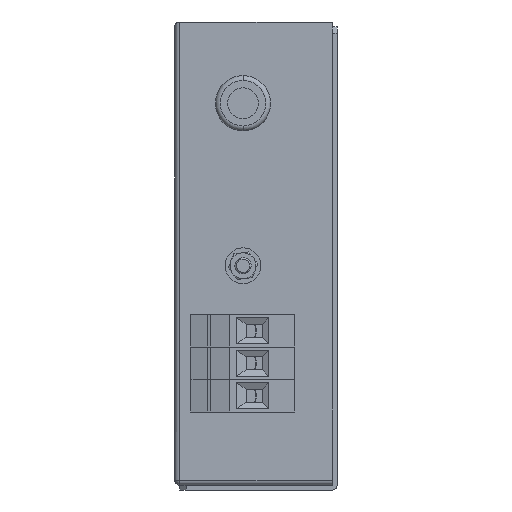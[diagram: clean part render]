
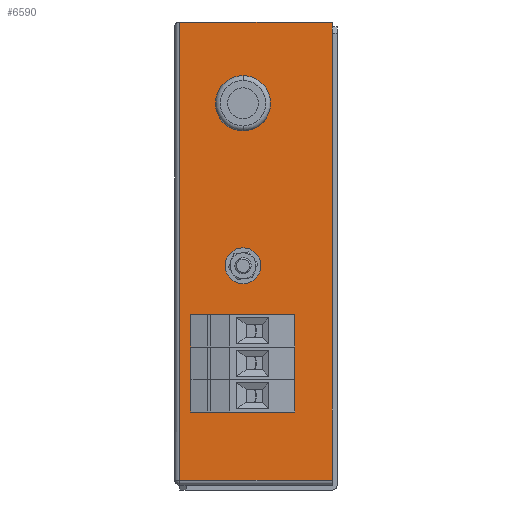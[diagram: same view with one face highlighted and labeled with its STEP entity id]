
A CAD part, left-side view. The second image highlights one B-rep face of the part: STEP entity #6590.
In plain terms, the highlighted planar face has unit normal (-1, 0, 0).
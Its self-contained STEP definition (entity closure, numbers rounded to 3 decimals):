
#50 = DIRECTION ( 'NONE',  ( -1., 0., 0. ) ) ;
#68 = FACE_BOUND ( 'NONE', #1959, .T. ) ;
#165 = EDGE_CURVE ( 'NONE', #5141, #2364, #3622, .T. ) ;
#274 = CIRCLE ( 'NONE', #5175, 4.1 ) ;
#373 = CARTESIAN_POINT ( 'NONE',  ( 23., 29., -17.25 ) ) ;
#379 = CIRCLE ( 'NONE', #3315, 2.5 ) ;
#471 = DIRECTION ( 'NONE',  ( 0., 0., 1. ) ) ;
#481 = CARTESIAN_POINT ( 'NONE',  ( 23., 48.5, 1.5 ) ) ;
#500 = CARTESIAN_POINT ( 'NONE',  ( 23., 1.5, 0. ) ) ;
#590 = ORIENTED_EDGE ( 'NONE', *, *, #165, .T. ) ;
#664 = ORIENTED_EDGE ( 'NONE', *, *, #9201, .T. ) ;
#681 = ORIENTED_EDGE ( 'NONE', *, *, #1506, .T. ) ;
#748 = EDGE_LOOP ( 'NONE', ( #8249, #5520 ) ) ;
#836 = DIRECTION ( 'NONE',  ( -1., 0., 0. ) ) ;
#982 = CARTESIAN_POINT ( 'NONE',  ( 23., 29., -113.5 ) ) ;
#1082 = VERTEX_POINT ( 'NONE', #6636 ) ;
#1245 = AXIS2_PLACEMENT_3D ( 'NONE', #8604, #4625, #3894 ) ;
#1300 = CARTESIAN_POINT ( 'NONE',  ( 23., 29., -73.5 ) ) ;
#1316 = EDGE_LOOP ( 'NONE', ( #3254, #4554 ) ) ;
#1321 = EDGE_LOOP ( 'NONE', ( #3928, #2498 ) ) ;
#1506 = EDGE_CURVE ( 'NONE', #8306, #5703, #10332, .T. ) ;
#1517 = EDGE_CURVE ( 'NONE', #5703, #5141, #1542, .T. ) ;
#1542 = LINE ( 'NONE', #1858, #10077 ) ;
#1591 = ORIENTED_EDGE ( 'NONE', *, *, #1517, .T. ) ;
#1647 = CIRCLE ( 'NONE', #1711, 4.1 ) ;
#1654 = CIRCLE ( 'NONE', #9341, 6.25 ) ;
#1659 = EDGE_CURVE ( 'NONE', #3522, #4749, #1654, .T. ) ;
#1694 = DIRECTION ( 'NONE',  ( 0., 0., 1. ) ) ;
#1711 = AXIS2_PLACEMENT_3D ( 'NONE', #2920, #6899, #471 ) ;
#1858 = CARTESIAN_POINT ( 'NONE',  ( 23., 50., -139.5 ) ) ;
#1959 = EDGE_LOOP ( 'NONE', ( #2828, #5641 ) ) ;
#1973 = EDGE_CURVE ( 'NONE', #2841, #9888, #8618, .T. ) ;
#2099 = CARTESIAN_POINT ( 'NONE',  ( 23., 1.5, 1.5 ) ) ;
#2111 = DIRECTION ( 'NONE',  ( 0., 0., 1. ) ) ;
#2228 = VERTEX_POINT ( 'NONE', #5168 ) ;
#2308 = CARTESIAN_POINT ( 'NONE',  ( 23., 29., -109.4 ) ) ;
#2364 = VERTEX_POINT ( 'NONE', #500 ) ;
#2387 = CARTESIAN_POINT ( 'NONE',  ( 23., 29., -103.5 ) ) ;
#2498 = ORIENTED_EDGE ( 'NONE', *, *, #1973, .F. ) ;
#2557 = VERTEX_POINT ( 'NONE', #9588 ) ;
#2689 = EDGE_CURVE ( 'NONE', #9604, #5538, #5053, .T. ) ;
#2742 = ORIENTED_EDGE ( 'NONE', *, *, #1659, .F. ) ;
#2764 = CARTESIAN_POINT ( 'NONE',  ( 23., 29., -107.6 ) ) ;
#2828 = ORIENTED_EDGE ( 'NONE', *, *, #8400, .F. ) ;
#2841 = VERTEX_POINT ( 'NONE', #2764 ) ;
#2920 = CARTESIAN_POINT ( 'NONE',  ( 23., 29., -93.5 ) ) ;
#3243 = VECTOR ( 'NONE', #10165, 1000. ) ;
#3254 = ORIENTED_EDGE ( 'NONE', *, *, #6316, .F. ) ;
#3292 = DIRECTION ( 'NONE',  ( 0., 0., 1. ) ) ;
#3315 = AXIS2_PLACEMENT_3D ( 'NONE', #1300, #9428, #2111 ) ;
#3363 = DIRECTION ( 'NONE',  ( 0., -1., 0. ) ) ;
#3522 = VERTEX_POINT ( 'NONE', #5057 ) ;
#3622 = LINE ( 'NONE', #9876, #3243 ) ;
#3664 = CIRCLE ( 'NONE', #8007, 6.25 ) ;
#3751 = DIRECTION ( 'NONE',  ( 0., 0., -1. ) ) ;
#3894 = DIRECTION ( 'NONE',  ( 0., 0., 1. ) ) ;
#3928 = ORIENTED_EDGE ( 'NONE', *, *, #8953, .F. ) ;
#4063 = DIRECTION ( 'NONE',  ( -1., 0., 0. ) ) ;
#4197 = CARTESIAN_POINT ( 'NONE',  ( 23., 1.5, 1.5 ) ) ;
#4533 = DIRECTION ( 'NONE',  ( -1., 0., 0. ) ) ;
#4554 = ORIENTED_EDGE ( 'NONE', *, *, #9552, .F. ) ;
#4558 = DIRECTION ( 'NONE',  ( 0., 0., 1. ) ) ;
#4595 = CIRCLE ( 'NONE', #8635, 4.1 ) ;
#4625 = DIRECTION ( 'NONE',  ( -1., 0., 0. ) ) ;
#4647 = FACE_BOUND ( 'NONE', #1316, .T. ) ;
#4749 = VERTEX_POINT ( 'NONE', #373 ) ;
#4936 = CARTESIAN_POINT ( 'NONE',  ( 23., 29., -76. ) ) ;
#5011 = CARTESIAN_POINT ( 'NONE',  ( 23., 29., -113.5 ) ) ;
#5043 = EDGE_LOOP ( 'NONE', ( #6166, #681, #1591, #590, #664 ) ) ;
#5050 = DIRECTION ( 'NONE',  ( 0., -1., 0. ) ) ;
#5053 = CIRCLE ( 'NONE', #7904, 4.1 ) ;
#5057 = CARTESIAN_POINT ( 'NONE',  ( 23., 29., -29.75 ) ) ;
#5115 = DIRECTION ( 'NONE',  ( -1., 0., 0. ) ) ;
#5141 = VERTEX_POINT ( 'NONE', #6902 ) ;
#5156 = DIRECTION ( 'NONE',  ( 0., 0., -1. ) ) ;
#5168 = CARTESIAN_POINT ( 'NONE',  ( 23., 29., -71. ) ) ;
#5175 = AXIS2_PLACEMENT_3D ( 'NONE', #5011, #5115, #8342 ) ;
#5353 = CIRCLE ( 'NONE', #1245, 2.5 ) ;
#5364 = AXIS2_PLACEMENT_3D ( 'NONE', #9017, #50, #5779 ) ;
#5396 = AXIS2_PLACEMENT_3D ( 'NONE', #2387, #4063, #1694 ) ;
#5520 = ORIENTED_EDGE ( 'NONE', *, *, #8631, .F. ) ;
#5538 = VERTEX_POINT ( 'NONE', #9342 ) ;
#5641 = ORIENTED_EDGE ( 'NONE', *, *, #10185, .F. ) ;
#5703 = VERTEX_POINT ( 'NONE', #7789 ) ;
#5779 = DIRECTION ( 'NONE',  ( 0., 0., 1. ) ) ;
#5965 = VECTOR ( 'NONE', #5156, 1000. ) ;
#6146 = EDGE_CURVE ( 'NONE', #4749, #3522, #3664, .T. ) ;
#6166 = ORIENTED_EDGE ( 'NONE', *, *, #9275, .F. ) ;
#6280 = FACE_BOUND ( 'NONE', #10164, .T. ) ;
#6316 = EDGE_CURVE ( 'NONE', #2557, #1082, #9621, .T. ) ;
#6324 = VERTEX_POINT ( 'NONE', #4936 ) ;
#6590 = ADVANCED_FACE ( 'NONE', ( #9609, #8686, #4647, #68, #6280, #9740 ), #9343, .F. ) ;
#6636 = CARTESIAN_POINT ( 'NONE',  ( 23., 29., -97.6 ) ) ;
#6899 = DIRECTION ( 'NONE',  ( -1., 0., 0. ) ) ;
#6902 = CARTESIAN_POINT ( 'NONE',  ( 23., 1.5, -139.5 ) ) ;
#6917 = CARTESIAN_POINT ( 'NONE',  ( 23., 29., -23.5 ) ) ;
#7018 = DIRECTION ( 'NONE',  ( -1., 0., 0. ) ) ;
#7124 = DIRECTION ( 'NONE',  ( 0., 0., 1. ) ) ;
#7611 = LINE ( 'NONE', #4197, #10448 ) ;
#7789 = CARTESIAN_POINT ( 'NONE',  ( 23., 48.5, -139.5 ) ) ;
#7904 = AXIS2_PLACEMENT_3D ( 'NONE', #982, #9135, #9934 ) ;
#7908 = CARTESIAN_POINT ( 'NONE',  ( 23., 29., -103.5 ) ) ;
#8007 = AXIS2_PLACEMENT_3D ( 'NONE', #8806, #836, #7124 ) ;
#8249 = ORIENTED_EDGE ( 'NONE', *, *, #2689, .F. ) ;
#8306 = VERTEX_POINT ( 'NONE', #481 ) ;
#8342 = DIRECTION ( 'NONE',  ( 0., 0., 1. ) ) ;
#8400 = EDGE_CURVE ( 'NONE', #2228, #6324, #5353, .T. ) ;
#8483 = AXIS2_PLACEMENT_3D ( 'NONE', #8603, #10247, #3751 ) ;
#8603 = CARTESIAN_POINT ( 'NONE',  ( 23., 50., 1.5 ) ) ;
#8604 = CARTESIAN_POINT ( 'NONE',  ( 23., 29., -73.5 ) ) ;
#8618 = CIRCLE ( 'NONE', #5396, 4.1 ) ;
#8631 = EDGE_CURVE ( 'NONE', #5538, #9604, #274, .T. ) ;
#8635 = AXIS2_PLACEMENT_3D ( 'NONE', #7908, #7018, #4558 ) ;
#8686 = FACE_BOUND ( 'NONE', #1321, .T. ) ;
#8720 = VERTEX_POINT ( 'NONE', #2099 ) ;
#8762 = VECTOR ( 'NONE', #3363, 1000. ) ;
#8806 = CARTESIAN_POINT ( 'NONE',  ( 23., 29., -23.5 ) ) ;
#8933 = CARTESIAN_POINT ( 'NONE',  ( 23., 29., -99.4 ) ) ;
#8953 = EDGE_CURVE ( 'NONE', #9888, #2841, #4595, .T. ) ;
#9017 = CARTESIAN_POINT ( 'NONE',  ( 23., 29., -93.5 ) ) ;
#9024 = LINE ( 'NONE', #9919, #8762 ) ;
#9135 = DIRECTION ( 'NONE',  ( -1., 0., 0. ) ) ;
#9201 = EDGE_CURVE ( 'NONE', #2364, #8720, #7611, .T. ) ;
#9250 = DIRECTION ( 'NONE',  ( 0., 0., 1. ) ) ;
#9275 = EDGE_CURVE ( 'NONE', #8306, #8720, #9024, .T. ) ;
#9341 = AXIS2_PLACEMENT_3D ( 'NONE', #6917, #4533, #9250 ) ;
#9342 = CARTESIAN_POINT ( 'NONE',  ( 23., 29., -117.6 ) ) ;
#9343 = PLANE ( 'NONE',  #8483 ) ;
#9428 = DIRECTION ( 'NONE',  ( -1., 0., 0. ) ) ;
#9552 = EDGE_CURVE ( 'NONE', #1082, #2557, #1647, .T. ) ;
#9588 = CARTESIAN_POINT ( 'NONE',  ( 23., 29., -89.4 ) ) ;
#9604 = VERTEX_POINT ( 'NONE', #2308 ) ;
#9609 = FACE_BOUND ( 'NONE', #748, .T. ) ;
#9621 = CIRCLE ( 'NONE', #5364, 4.1 ) ;
#9672 = ORIENTED_EDGE ( 'NONE', *, *, #6146, .F. ) ;
#9740 = FACE_OUTER_BOUND ( 'NONE', #5043, .T. ) ;
#9876 = CARTESIAN_POINT ( 'NONE',  ( 23., 1.5, 1.5 ) ) ;
#9888 = VERTEX_POINT ( 'NONE', #8933 ) ;
#9919 = CARTESIAN_POINT ( 'NONE',  ( 23., 50., 1.5 ) ) ;
#9934 = DIRECTION ( 'NONE',  ( 0., 0., 1. ) ) ;
#10016 = CARTESIAN_POINT ( 'NONE',  ( 23., 48.5, 1.5 ) ) ;
#10077 = VECTOR ( 'NONE', #5050, 1000. ) ;
#10164 = EDGE_LOOP ( 'NONE', ( #9672, #2742 ) ) ;
#10165 = DIRECTION ( 'NONE',  ( 0., 0., 1. ) ) ;
#10185 = EDGE_CURVE ( 'NONE', #6324, #2228, #379, .T. ) ;
#10247 = DIRECTION ( 'NONE',  ( 1., 0., 0. ) ) ;
#10332 = LINE ( 'NONE', #10016, #5965 ) ;
#10448 = VECTOR ( 'NONE', #3292, 1000. ) ;
